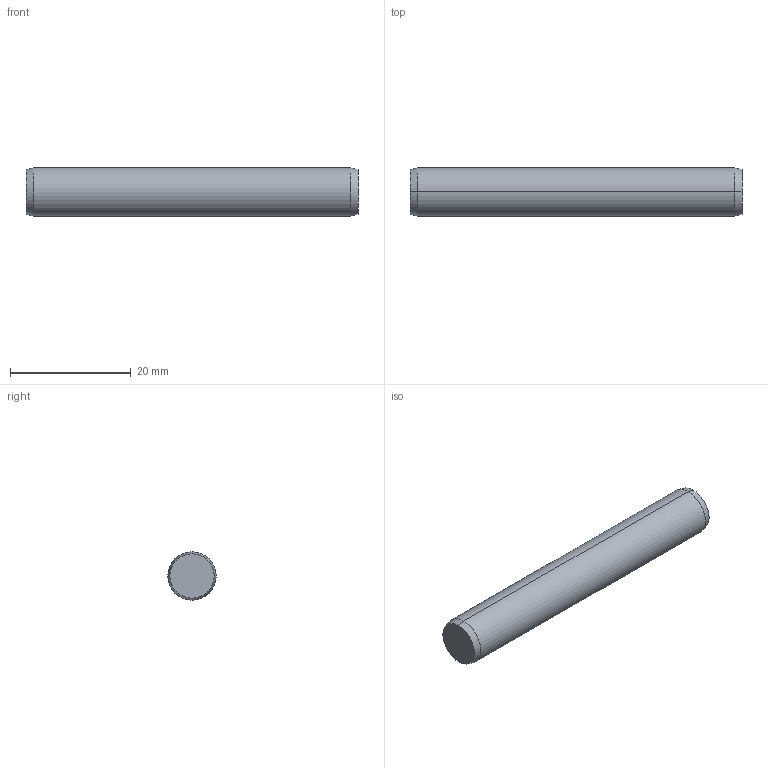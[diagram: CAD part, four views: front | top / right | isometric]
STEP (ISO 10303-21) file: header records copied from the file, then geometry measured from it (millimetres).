
FILE_DESCRIPTION (( 'STEP AP203' ), '1' );
FILE_NAME ('P1206.080-055.step', '2017-06-14T08:28:49', ( 'User' ), ( '' ), 'SwSTEP 2.0', 'SolidWorks 2009', '' );
FILE_SCHEMA (( 'CONFIG_CONTROL_DESIGN' ));
Length unit declared in the file: millimetre
Products named in the file (1): P1206.080-055
Bounding box: 55 x 8 x 8 mm (x, y, z)
Volume: 2755.2 mm3; surface area: 1466.9 mm2
Topology: 1 solids, 1 shells, 8 faces, 14 edges, 8 vertices
Faces by surface type: cone 4, cylinder 2, plane 2
Entity records: 271 total; most frequent: DIRECTION 40, CARTESIAN_POINT 31, ORIENTED_EDGE 28, AXIS2_PLACEMENT_3D 17, EDGE_CURVE 14, CIRCLE 8, FACE_OUTER_BOUND 8, PERSON_AND_ORGANIZATION 8
